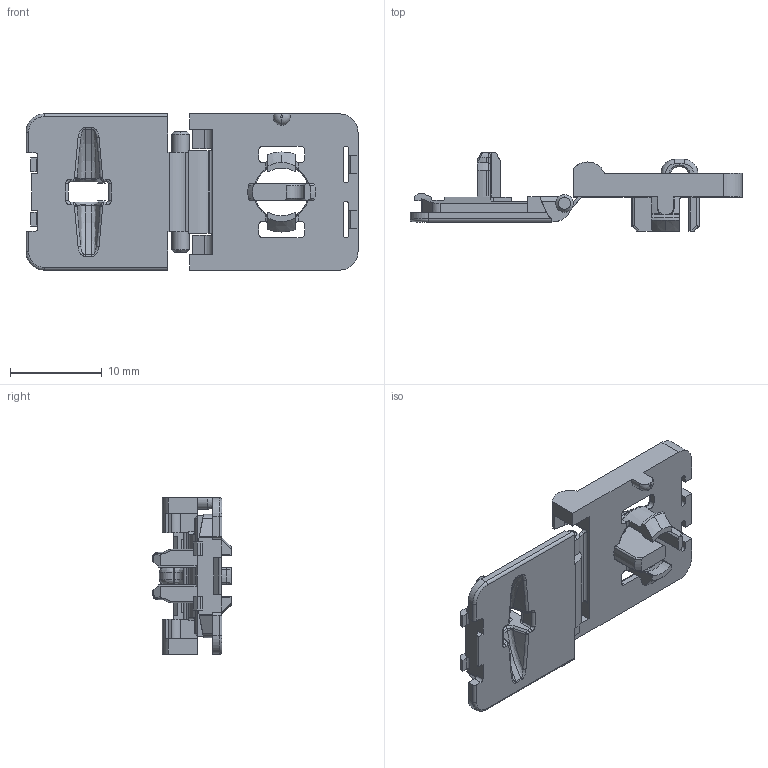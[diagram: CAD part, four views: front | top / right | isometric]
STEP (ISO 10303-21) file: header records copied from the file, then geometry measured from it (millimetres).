
FILE_DESCRIPTION (( 'STEP AP214' ), '1' );
FILE_NAME ('OD-LV-VP01.STEP', '2018-09-10T09:45:52', ( '' ), ( '' ), 'SwSTEP 2.0', 'SolidWorks 2015', '' );
FILE_SCHEMA (( 'AUTOMOTIVE_DESIGN' ));
Length unit declared in the file: millimetre
Products named in the file (1): OD-LV-VP01
Bounding box: 36.1 x 8.5 x 17 mm (x, y, z)
Volume: 873.2 mm3; surface area: 1945.1 mm2
Topology: 1 solids, 1 shells, 564 faces, 1552 edges, 948 vertices
Faces by surface type: cylinder 204, plane 196, bspline 138, cone 24, torus 2
Entity records: 21245 total; most frequent: CARTESIAN_POINT 8092, ORIENTED_EDGE 3044, DIRECTION 2459, EDGE_CURVE 1522, VERTEX_POINT 948, AXIS2_PLACEMENT_3D 834, VECTOR 791, LINE 791
